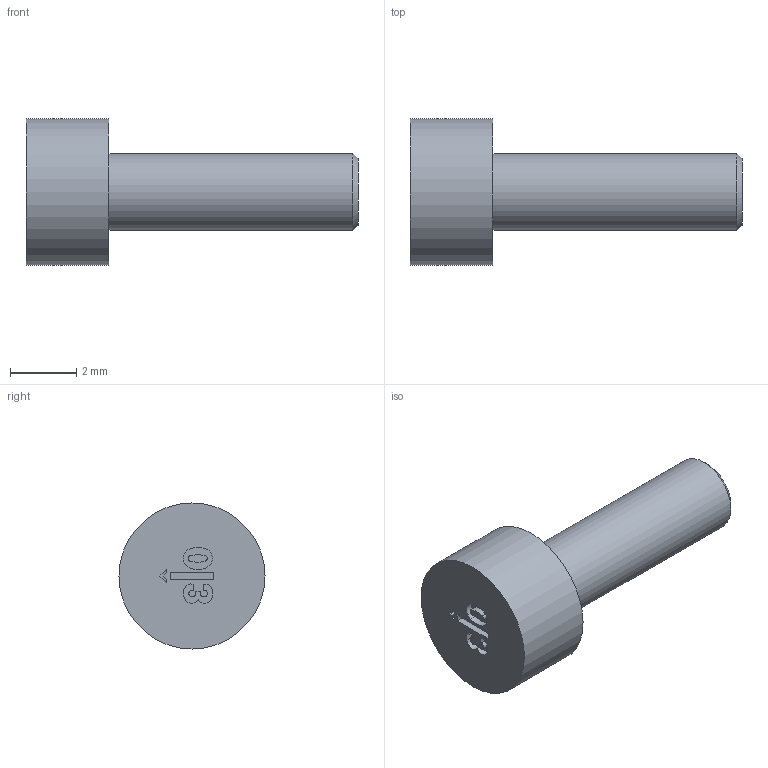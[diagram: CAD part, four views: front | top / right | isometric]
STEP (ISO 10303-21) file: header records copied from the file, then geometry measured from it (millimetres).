
FILE_DESCRIPTION( ( 'STEP AP203' ), ' ' );
FILE_NAME( 'p:/temp/worker_146/4828_2824/app_49_12017012608390164222704260eae72_000000_00_00_000000/format_0/YOS 08.stp', '2017-01-26T07:39:01', ( '' ), ( '' ), ' ', 'PARTsolutions', ' ' );
FILE_SCHEMA( ( 'CONFIG_CONTROL_DESIGN' ) );
Length unit declared in the file: millimetre
Products named in the file (1): _YOS 081
Bounding box: 10 x 4.4 x 4.4 mm (x, y, z)
Volume: 68.9 mm3; surface area: 121.1 mm2
Topology: 1 solids, 1 shells, 46 faces, 113 edges, 75 vertices
Faces by surface type: plane 29, cylinder 16, cone 1
Full cylindrical faces by diameter (mm): 2.3 x1, 4.4 x1
Entity records: 1391 total; most frequent: DIRECTION 237, CARTESIAN_POINT 232, ORIENTED_EDGE 220, EDGE_CURVE 110, AXIS2_PLACEMENT_3D 80, LINE 77, VECTOR 77, VERTEX_POINT 75
